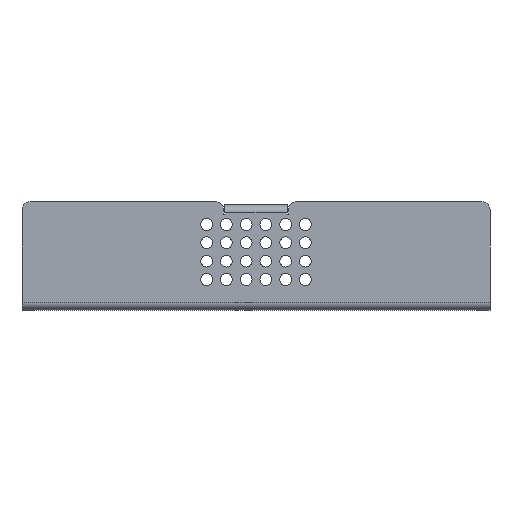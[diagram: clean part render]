
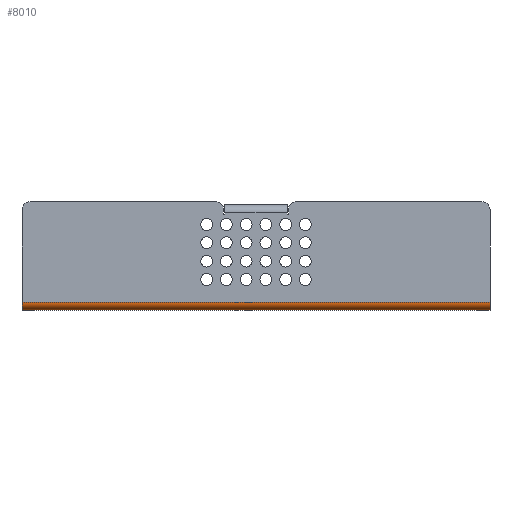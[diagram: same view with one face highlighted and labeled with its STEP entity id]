
A CAD part, front view. The second image highlights one B-rep face of the part: STEP entity #8010.
In plain terms, the highlighted cylindrical face has radius 2.007 mm (diameter 4.013 mm), a partial arc.
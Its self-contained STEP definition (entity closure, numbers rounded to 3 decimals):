
#1418=CARTESIAN_POINT('',(186.283,-110.524,-2.737));
#1419=DIRECTION('',(1.,0.,0.));
#1420=DIRECTION('',(0.,-1.,0.));
#1421=AXIS2_PLACEMENT_3D('',#1418,#1419,#1420);
#1432=DIRECTION('',(-1.,0.,0.));
#1433=VECTOR('',#1432,118.618);
#1434=CARTESIAN_POINT('',(186.283,-112.531,-2.737));
#1435=LINE('',#1434,#1433);
#1436=DIRECTION('',(1.,0.,0.));
#1437=VECTOR('',#1436,118.618);
#1438=CARTESIAN_POINT('',(67.665,-110.524,
-4.743));
#1439=LINE('',#1438,#1437);
#1444=CARTESIAN_POINT('',(67.665,-110.524,
-2.737));
#1445=DIRECTION('',(-1.,0.,0.));
#1446=DIRECTION('',(0.,0.,-1.));
#1447=AXIS2_PLACEMENT_3D('',#1444,#1445,#1446);
#4864=CARTESIAN_POINT('',(67.665,-110.524,
-4.743));
#4865=VERTEX_POINT('',#4864);
#4870=CARTESIAN_POINT('',(186.283,-110.524,-4.743));
#4872=VERTEX_POINT('',#4870);
#5104=CARTESIAN_POINT('',(67.665,-112.531,
-2.737));
#5105=VERTEX_POINT('',#5104);
#5106=CARTESIAN_POINT('',(186.283,-112.531,-2.737));
#5107=VERTEX_POINT('',#5106);
#7997=CARTESIAN_POINT('',(186.283,-110.524,-2.737));
#7998=DIRECTION('',(-1.,0.,0.));
#7999=DIRECTION('',(0.,0.,1.));
#8000=AXIS2_PLACEMENT_3D('',#7997,#7998,#7999);
#8001=CYLINDRICAL_SURFACE('',#8000,2.007);
#8003=ORIENTED_EDGE('',*,*,#8002,.T.);
#8005=ORIENTED_EDGE('',*,*,#8004,.F.);
#8006=ORIENTED_EDGE('',*,*,#7988,.T.);
#8007=ORIENTED_EDGE('',*,*,#6207,.F.);
#8008=EDGE_LOOP('',(#8003,#8005,#8006,#8007));
#8009=FACE_OUTER_BOUND('',#8008,.F.);
#8010=ADVANCED_FACE('',(#8009),#8001,.T.);
#1422=CIRCLE('',#1421,2.007);
#1448=CIRCLE('',#1447,2.007);
#6207=EDGE_CURVE('',#4865,#4872,#1439,.T.);
#7988=EDGE_CURVE('',#5107,#4872,#1422,.T.);
#8002=EDGE_CURVE('',#4865,#5105,#1448,.T.);
#8004=EDGE_CURVE('',#5107,#5105,#1435,.T.);
